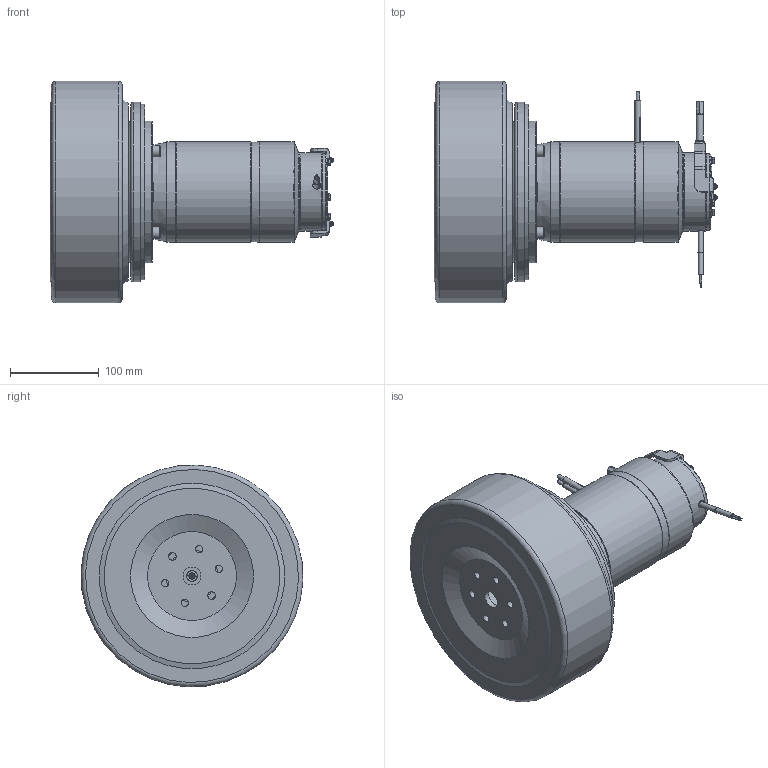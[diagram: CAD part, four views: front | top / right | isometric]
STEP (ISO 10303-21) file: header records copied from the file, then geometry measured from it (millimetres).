
FILE_DESCRIPTION(/* description */ (''),/* implementation_level */ '2;1');
FILE_NAME(/* name */ 'Z:\SITO WEB 2023\Dual Drive\MRH157\MRH157 DC D.250 mm\MRH157.DC.250.stp',/* time_stamp */ '2023-09-21T16:51:19+02:00',/* author */ ('cad3'),/* organization */ (''),/* preprocessor_version */ 'ST-DEVELOPER v18.1',/* originating_system */ 'Autodesk Inventor 2022',/* authorisation */ '');
FILE_SCHEMA (('AUTOMOTIVE_DESIGN { 1 0 10303 214 3 1 1 }'));
Products named in the file (1): MRH157.DC.250
Bounding box: 319.7 x 249.74 x 249.74 mm (x, y, z)
Volume: 3954532 mm3; surface area: 593065.5 mm2
Topology: 7 solids, 14 shells, 2506 faces, 7189 edges, 4576 vertices
Faces by surface type: plane 1420, cylinder 725, cone 283, bspline 45, torus 32, sphere 1
Full cylindrical faces by diameter (mm): 0.75 x2, 2 x2, 3 x6, 3.2 x6, 3.5 x2, 4 x12, 4.2 x12, 4.3 x3, 4.5 x4, 5 x6, 5.2 x10, 5.4 x1, 5.5 x7, 5.88 x3, 5.917 x3, 6 x1, 6.5 x6, 6.647 x4, 7 x5, 7.2 x1, 7.8 x1, 8 x12, 8.376 x8, 8.4 x5, 8.5 x6, 9 x5, 9.5 x4, 10 x2, 12.5 x1, 13 x9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
Entity records: 91449 total; most frequent: CARTESIAN_POINT 22594, ORIENTED_EDGE 14348, DIRECTION 13882, EDGE_CURVE 7174, AXIS2_PLACEMENT_3D 5046, VERTEX_POINT 4576, LINE 3790, VECTOR 3790
